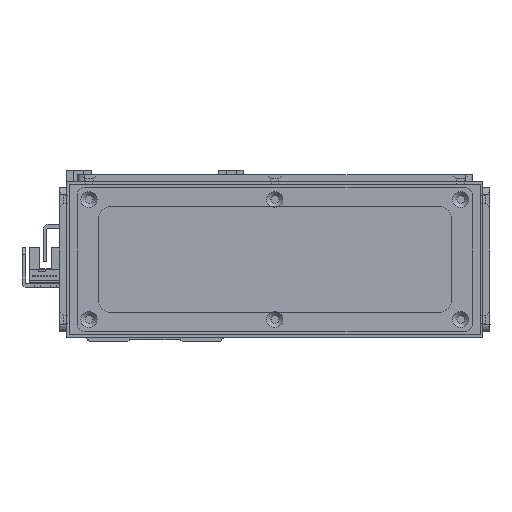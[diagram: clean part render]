
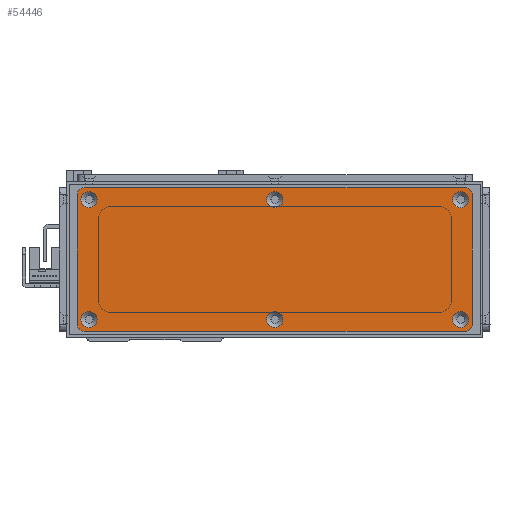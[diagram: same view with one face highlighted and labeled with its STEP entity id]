
A CAD part, left-side view. The second image highlights one B-rep face of the part: STEP entity #54446.
In plain terms, the highlighted planar face has unit normal (-1, 0, 0) as drawn and (0, 0, 1) by its records, which use the part's own axes.
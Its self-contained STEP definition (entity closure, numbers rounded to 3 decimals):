
#2452=FACE_BOUND('',#9639,.T.);
#2453=FACE_BOUND('',#9640,.T.);
#2454=FACE_BOUND('',#9641,.T.);
#2455=FACE_BOUND('',#9642,.T.);
#2456=FACE_BOUND('',#9643,.T.);
#2457=FACE_BOUND('',#9644,.T.);
#3088=PLANE('',#58830);
#6402=FACE_OUTER_BOUND('',#9638,.T.);
#9638=EDGE_LOOP('',(#43822,#43823,#43824,#43825,#43826,#43827,#43828,#43829));
#9639=EDGE_LOOP('',(#43830));
#9640=EDGE_LOOP('',(#43831));
#9641=EDGE_LOOP('',(#43832));
#9642=EDGE_LOOP('',(#43833));
#9643=EDGE_LOOP('',(#43834));
#9644=EDGE_LOOP('',(#43835));
#13133=LINE('',#82008,#19355);
#13136=LINE('',#82016,#19358);
#13139=LINE('',#82024,#19361);
#13142=LINE('',#82031,#19364);
#19355=VECTOR('',#67023,10.);
#19358=VECTOR('',#67032,10.);
#19361=VECTOR('',#67041,10.);
#19364=VECTOR('',#67050,10.);
#25018=CIRCLE('',#58784,3.45);
#25021=CIRCLE('',#58789,3.45);
#25024=CIRCLE('',#58794,3.45);
#25027=CIRCLE('',#58799,3.45);
#25030=CIRCLE('',#58804,3.45);
#25033=CIRCLE('',#58809,3.45);
#25040=CIRCLE('',#58819,3.);
#25041=CIRCLE('',#58822,3.);
#25042=CIRCLE('',#58825,3.);
#25043=CIRCLE('',#58828,3.);
#27143=VERTEX_POINT('',#81924);
#27146=VERTEX_POINT('',#81934);
#27149=VERTEX_POINT('',#81944);
#27152=VERTEX_POINT('',#81954);
#27155=VERTEX_POINT('',#81964);
#27158=VERTEX_POINT('',#81974);
#27169=VERTEX_POINT('',#82001);
#27170=VERTEX_POINT('',#82003);
#27171=VERTEX_POINT('',#82007);
#27172=VERTEX_POINT('',#82011);
#27173=VERTEX_POINT('',#82015);
#27174=VERTEX_POINT('',#82019);
#27175=VERTEX_POINT('',#82023);
#27176=VERTEX_POINT('',#82027);
#33196=EDGE_CURVE('',#27143,#27143,#25018,.T.);
#33201=EDGE_CURVE('',#27146,#27146,#25021,.T.);
#33206=EDGE_CURVE('',#27149,#27149,#25024,.T.);
#33211=EDGE_CURVE('',#27152,#27152,#25027,.T.);
#33216=EDGE_CURVE('',#27155,#27155,#25030,.T.);
#33221=EDGE_CURVE('',#27158,#27158,#25033,.T.);
#33235=EDGE_CURVE('',#27170,#27169,#25040,.T.);
#33237=EDGE_CURVE('',#27171,#27170,#13133,.T.);
#33239=EDGE_CURVE('',#27172,#27171,#25041,.T.);
#33241=EDGE_CURVE('',#27173,#27172,#13136,.T.);
#33243=EDGE_CURVE('',#27174,#27173,#25042,.T.);
#33245=EDGE_CURVE('',#27175,#27174,#13139,.T.);
#33247=EDGE_CURVE('',#27176,#27175,#25043,.T.);
#33249=EDGE_CURVE('',#27169,#27176,#13142,.T.);
#43822=ORIENTED_EDGE('',*,*,#33249,.T.);
#43823=ORIENTED_EDGE('',*,*,#33247,.T.);
#43824=ORIENTED_EDGE('',*,*,#33245,.T.);
#43825=ORIENTED_EDGE('',*,*,#33243,.T.);
#43826=ORIENTED_EDGE('',*,*,#33241,.T.);
#43827=ORIENTED_EDGE('',*,*,#33239,.T.);
#43828=ORIENTED_EDGE('',*,*,#33237,.T.);
#43829=ORIENTED_EDGE('',*,*,#33235,.T.);
#43830=ORIENTED_EDGE('',*,*,#33196,.T.);
#43831=ORIENTED_EDGE('',*,*,#33201,.T.);
#43832=ORIENTED_EDGE('',*,*,#33206,.T.);
#43833=ORIENTED_EDGE('',*,*,#33211,.T.);
#43834=ORIENTED_EDGE('',*,*,#33216,.T.);
#43835=ORIENTED_EDGE('',*,*,#33221,.T.);
#54446=ADVANCED_FACE('',(#6402,#2452,#2453,#2454,#2455,#2456,#2457),#3088,
 .T.);
#58784=AXIS2_PLACEMENT_3D('',#81925,#66931,#66932);
#58789=AXIS2_PLACEMENT_3D('',#81935,#66943,#66944);
#58794=AXIS2_PLACEMENT_3D('',#81945,#66955,#66956);
#58799=AXIS2_PLACEMENT_3D('',#81955,#66967,#66968);
#58804=AXIS2_PLACEMENT_3D('',#81965,#66979,#66980);
#58809=AXIS2_PLACEMENT_3D('',#81975,#66991,#66992);
#58819=AXIS2_PLACEMENT_3D('',#82004,#67018,#67019);
#58822=AXIS2_PLACEMENT_3D('',#82012,#67027,#67028);
#58825=AXIS2_PLACEMENT_3D('',#82020,#67036,#67037);
#58828=AXIS2_PLACEMENT_3D('',#82028,#67045,#67046);
#58830=AXIS2_PLACEMENT_3D('',#82032,#67051,#67052);
#66931=DIRECTION('center_axis',(0.,0.,-1.));
#66932=DIRECTION('ref_axis',(1.,0.,0.));
#66943=DIRECTION('center_axis',(0.,0.,-1.));
#66944=DIRECTION('ref_axis',(1.,0.,0.));
#66955=DIRECTION('center_axis',(0.,0.,-1.));
#66956=DIRECTION('ref_axis',(1.,0.,0.));
#66967=DIRECTION('center_axis',(0.,0.,-1.));
#66968=DIRECTION('ref_axis',(1.,0.,0.));
#66979=DIRECTION('center_axis',(0.,0.,-1.));
#66980=DIRECTION('ref_axis',(1.,0.,0.));
#66991=DIRECTION('center_axis',(0.,0.,-1.));
#66992=DIRECTION('ref_axis',(1.,0.,0.));
#67018=DIRECTION('center_axis',(0.,0.,1.));
#67019=DIRECTION('ref_axis',(-1.,0.,0.));
#67023=DIRECTION('',(0.,1.,0.));
#67027=DIRECTION('center_axis',(0.,0.,1.));
#67028=DIRECTION('ref_axis',(0.,1.,0.));
#67032=DIRECTION('',(1.,0.,0.));
#67036=DIRECTION('center_axis',(0.,0.,1.));
#67037=DIRECTION('ref_axis',(1.,0.,0.));
#67041=DIRECTION('',(0.,-1.,0.));
#67045=DIRECTION('center_axis',(0.,0.,1.));
#67046=DIRECTION('ref_axis',(0.,-1.,0.));
#67050=DIRECTION('',(-1.,0.,0.));
#67051=DIRECTION('center_axis',(0.,0.,1.));
#67052=DIRECTION('ref_axis',(1.,0.,0.));
#81924=CARTESIAN_POINT('',(-3.45,25.5,1.5));
#81925=CARTESIAN_POINT('Origin',(0.,25.5,1.5));
#81934=CARTESIAN_POINT('',(75.55,-25.5,1.5));
#81935=CARTESIAN_POINT('Origin',(79.,-25.5,1.5));
#81944=CARTESIAN_POINT('',(-82.45,25.5,1.5));
#81945=CARTESIAN_POINT('Origin',(-79.,25.5,1.5));
#81954=CARTESIAN_POINT('',(75.55,25.5,1.5));
#81955=CARTESIAN_POINT('Origin',(79.,25.5,1.5));
#81964=CARTESIAN_POINT('',(-82.45,-25.5,1.5));
#81965=CARTESIAN_POINT('Origin',(-79.,-25.5,1.5));
#81974=CARTESIAN_POINT('',(-3.45,-25.5,1.5));
#81975=CARTESIAN_POINT('Origin',(0.,-25.5,1.5));
#82001=CARTESIAN_POINT('',(81.,30.5,1.5));
#82003=CARTESIAN_POINT('',(84.,27.5,1.5));
#82004=CARTESIAN_POINT('Origin',(81.,27.5,1.5));
#82007=CARTESIAN_POINT('',(84.,-27.5,1.5));
#82008=CARTESIAN_POINT('',(84.,27.5,1.5));
#82011=CARTESIAN_POINT('',(81.,-30.5,1.5));
#82012=CARTESIAN_POINT('Origin',(81.,-27.5,1.5));
#82015=CARTESIAN_POINT('',(-81.,-30.5,1.5));
#82016=CARTESIAN_POINT('',(81.,-30.5,1.5));
#82019=CARTESIAN_POINT('',(-84.,-27.5,1.5));
#82020=CARTESIAN_POINT('Origin',(-81.,-27.5,1.5));
#82023=CARTESIAN_POINT('',(-84.,27.5,1.5));
#82024=CARTESIAN_POINT('',(-84.,-27.5,1.5));
#82027=CARTESIAN_POINT('',(-81.,30.5,1.5));
#82028=CARTESIAN_POINT('Origin',(-81.,27.5,1.5));
#82031=CARTESIAN_POINT('',(-81.,30.5,1.5));
#82032=CARTESIAN_POINT('Origin',(0.,0.,
1.5));
